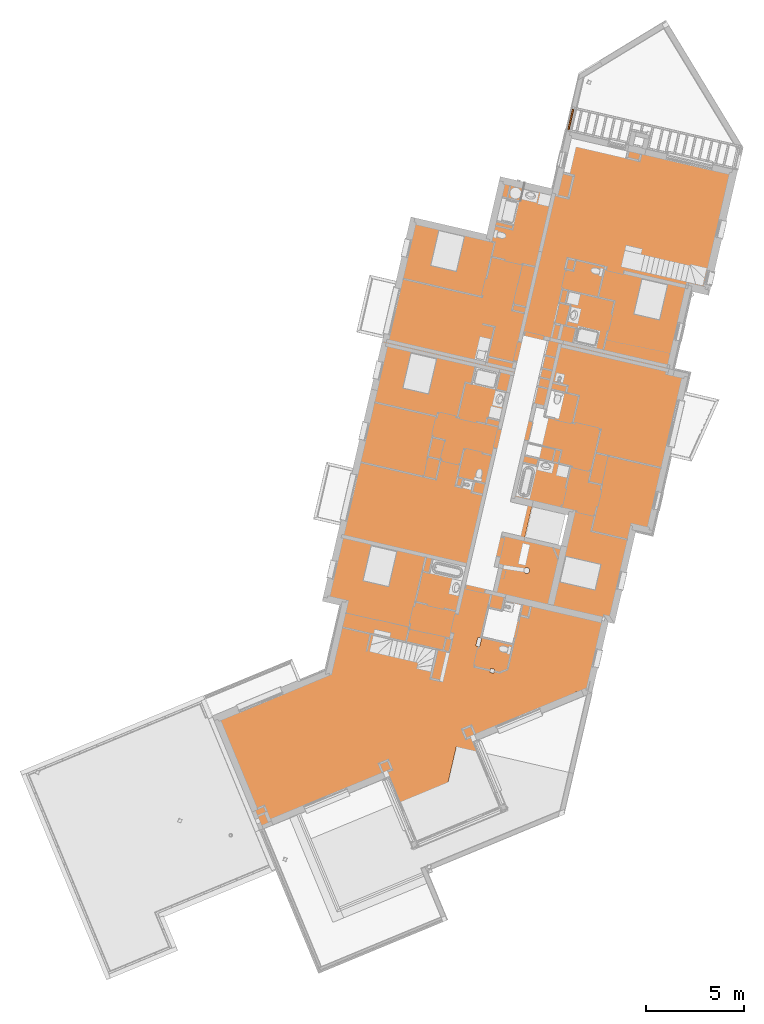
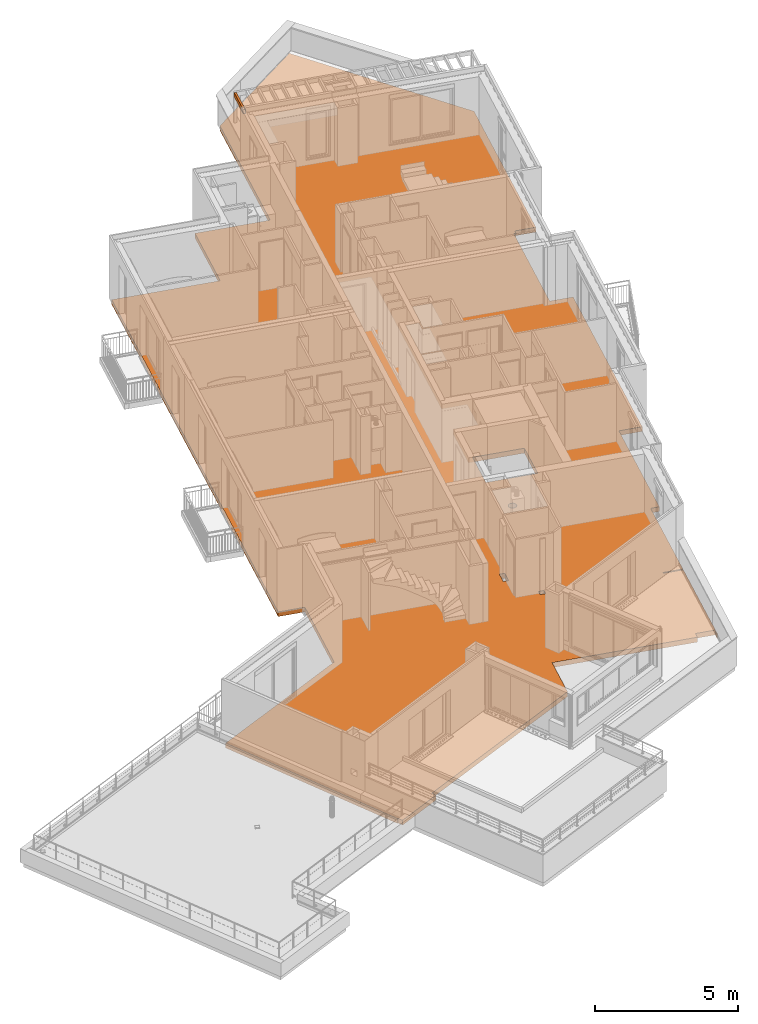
# One storey, part 61 of 62: 2 proxies, 1 opening.
"""IFC2X3 building model written with IfcOpenShell, lengths in metres."""

from ifc_helpers import new_model, entity, si_unit, converted_unit, derived_unit, money_unit, direction, frame, origin_with_axes, place, context, subcontext, project, spatial, faceted_brep, material, type_object, element, save


model = new_model("IFC2X3")

# Units and contexts
model_context = context("Model", 3, precision=1e-05, world=origin_with_axes(), true_north=direction((0.0, 1.0)))
body_context = subcontext(model_context, "Body", "Model", "MODEL_VIEW")
ifc_project = project(units=[si_unit("LENGTHUNIT", "METRE"), si_unit("AREAUNIT", "SQUARE_METRE"), si_unit("VOLUMEUNIT", "CUBIC_METRE"), converted_unit("PLANEANGLEUNIT", "DEGREE", entity("IfcPlaneAngleMeasure", 0.0174532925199), si_unit("PLANEANGLEUNIT", "RADIAN"), dimensions=[0, 0, 0, 0, 0, 0, 0]), si_unit("SOLIDANGLEUNIT", "STERADIAN"), money_unit("EUR"), converted_unit("TIMEUNIT", "Year", entity("IfcTimeMeasure", 31556926.0), si_unit("TIMEUNIT", "SECOND"), dimensions=[0, 0, 1, 0, 0, 0, 0]), si_unit("MASSUNIT", "GRAM", prefix="KILO"), si_unit("THERMODYNAMICTEMPERATUREUNIT", "DEGREE_CELSIUS"), si_unit("LUMINOUSINTENSITYUNIT", "LUMEN"), si_unit("ENERGYUNIT", "JOULE", prefix="MEGA"), derived_unit("THERMALCONDUCTANCEUNIT", [(si_unit("POWERUNIT", "WATT"), 1), (si_unit("LENGTHUNIT", "METRE"), -1), (si_unit("THERMODYNAMICTEMPERATUREUNIT", "KELVIN"), -1)]), derived_unit("SPECIFICHEATCAPACITYUNIT", [(si_unit("ENERGYUNIT", "JOULE"), 1), (si_unit("MASSUNIT", "GRAM", prefix="KILO"), -1), (si_unit("THERMODYNAMICTEMPERATUREUNIT", "KELVIN"), -1)]), derived_unit("MASSDENSITYUNIT", [(si_unit("MASSUNIT", "GRAM", prefix="KILO"), 1), (si_unit("VOLUMEUNIT", "CUBIC_METRE"), -1)])], contexts=[model_context])

# Site, building, storey
site_placement = place(None, origin_with_axes())
site = spatial("IfcSite", under=ifc_project, at=site_placement, Name="Site", CompositionType="ELEMENT")
building_placement = place(site_placement, origin_with_axes())
building = spatial("IfcBuilding", under=site, at=building_placement, Name="Bâtiment", CompositionType="ELEMENT")
storey_placement = place(building_placement, frame((0.0, 0.0, 8.16), z_axis=(0.0, 0.0, 1.0), x_axis=(1.0, 0.0, 0.0)))
storey = spatial("IfcBuildingStorey", under=building, at=storey_placement, Name="R+3", CompositionType="ELEMENT", Elevation=8.16)

# Proxy, opening
ifc_material_1 = material(Name="Béton")
building_element_proxy_type_1 = type_object("IfcBuildingElementProxyType", Name="Béton 210", PredefinedType="NOTDEFINED")
proxy_1_placement = place(storey_placement, frame((-19.7341343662, -12.8394716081, 0.0), z_axis=(0.0, 0.0, 1.0), x_axis=(1.0, 0.0, 0.0)))
proxy_1 = element("IfcBuildingElementProxy", 1, at=proxy_1_placement, inside=storey, type_object=building_element_proxy_type_1, material=ifc_material_1, Name="Dalle_004", context=body_context, shape_type="Brep", body=[
    faceted_brep([(0.813639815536, 3.42801296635, -0.209999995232), (0.747381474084, 3.4433045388, -0.210000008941), (-0.141277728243, 3.64839578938, -0.21), (2.89648553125, 16.8110073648, -0.21), (2.87514314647, 16.8159329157, -0.21), (2.8773919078, 16.8256767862, -0.21), (2.89873428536, 16.8207512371, -0.209999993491), (4.34579608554, 23.0908620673, -0.209999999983), (8.20251532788, 22.2007803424, -0.21), (8.20632428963, 22.2172845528, -0.209999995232), (8.22766667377, 22.2123590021, -0.209999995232), (8.90523259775, 25.1482484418, -0.209999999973), (11.5735017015, 24.5324458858, -0.21), (11.5773106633, 24.5489500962, -0.209999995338), (11.5986530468, 24.5440245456, -0.209999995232), (11.6139446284, 24.610282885, -0.21), (12.9549966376, 30.4210539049, -0.21000000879), (17.2578352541, 33.0363052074, -0.21), (21.0982594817, 26.7177056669, -0.21), (19.4297523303, 19.4880733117, -0.21), (18.6737200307, 19.6625559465, -0.21), (18.6440363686, 19.5339368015, -0.210000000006), (18.6148047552, 19.5406830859, -0.21), (18.548546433, 19.5559746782, -0.209999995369), (17.5800046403, 15.3592883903, -0.209999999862), (17.5976377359, 15.3552188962, -0.209999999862), (17.5938287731, 15.3387146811, -0.21), (18.4100848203, 15.150333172, -0.210000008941), (16.5472842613, 7.07882860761, -0.21), (15.7796534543, 7.25598801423, -0.210000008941), (15.7133951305, 7.27127960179, -0.209999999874), (14.6205702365, 2.53607535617, -0.209999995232), (14.3062505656, 2.60861633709, -0.209999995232), (13.4343320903, -1.16940163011, -0.21), (12.7356963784, -1.00816539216, -0.209999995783), (12.7204047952, -1.07442373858, -0.209999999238), (13.4190405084, -1.2356599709, -0.21), (13.4366736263, -1.23972948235, -0.210000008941), (12.5697741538, -4.99600015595, -0.210000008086), (11.8535053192, -4.83069442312, -0.209999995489), (11.8382137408, -4.89695274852, -0.209999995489), (11.8002235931, -5.06156385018, -0.21), (6.60514151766, -3.86260501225, -0.21), (6.18582355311, -5.66944034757, -0.21), (-1.04353289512, -8.66787291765, -0.21), (-0.970765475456, -8.84338620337, -0.21), (-2.74333896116, -9.57857496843, -0.209999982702), (-2.8233932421, -9.38556047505, -0.209999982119), (-2.8631224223, -9.4020384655, -0.21), (-5.77009633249, -2.39319290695, -0.21), (0.0, 0.0, -0.21), (0.00247496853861, 0.0107240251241, -0.209999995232), (0.0273545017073, 0.0210430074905, -0.209999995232), (12.3203100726, 7.98457302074, -0.21), (10.468974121, 8.41183780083, -0.21), (10.1091722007, 6.852818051, -0.21), (11.960508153, 6.42555327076, -0.21), (7.7105546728, 1.74819077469, -0.210000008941), (7.6015396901, 1.30129511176, -0.210000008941), (7.79584215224, 1.25389729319, -0.210000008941), (7.90485713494, 1.70079295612, -0.210000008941), (8.36686784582, 0.150968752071, -0.210000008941), (8.32189260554, -0.0439087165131, -0.210000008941), (8.51677007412, -0.0888839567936, -0.210000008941), (8.5617453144, 0.10599351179, -0.210000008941), (10.3162930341, 5.05305327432, -0.210000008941), (10.335699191, 5.08046941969, -0.210000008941), (10.3485181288, 5.11151646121, -0.210000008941), (10.3541070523, 5.14463757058, -0.210000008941), (10.3521857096, 5.17817191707, -0.210000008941), (10.342850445, 5.21043794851, -0.210000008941), (10.3265693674, 5.23981771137, -0.210000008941), (10.3041588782, 5.26483798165, -0.210000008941), (10.2767427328, 5.28424413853, -0.210000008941), (10.2456956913, 5.29706307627, -0.210000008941), (10.212574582, 5.3026519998, -0.210000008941), (10.1790402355, 5.30073065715, -0.210000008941), (10.146774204, 5.29139539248, -0.210000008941), (10.1173944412, 5.27511431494, -0.210000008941), (10.0923741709, 5.25270382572, -0.210000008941), (10.072968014, 5.22528768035, -0.210000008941), (10.0601490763, 5.19424063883, -0.210000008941), (10.0545601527, 5.16111952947, -0.210000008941), (10.0564814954, 5.12758518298, -0.210000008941), (10.0658167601, 5.09531915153, -0.210000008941), (10.0820978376, 5.06593938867, -0.210000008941), (10.1045083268, 5.04091911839, -0.210000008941), (10.1319244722, 5.02151296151, -0.210000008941), (10.1629715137, 5.00869402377, -0.210000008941), (10.1960926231, 5.00310510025, -0.210000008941), (10.2296269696, 5.00502644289, -0.210000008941), (10.261893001, 5.01436170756, -0.210000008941), (10.2912727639, 5.03064278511, -0.210000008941), (0.813639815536, 3.42801296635, -0.200000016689), (0.794152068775, 3.43251049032, -0.200000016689), (0.747381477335, 3.44330455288, -0.200000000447), (-0.141277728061, 3.6483957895, -0.200000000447), (2.89648553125, 16.8110073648, -0.2), (2.87699778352, 16.8155048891, -0.200000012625), (2.87514314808, 16.8159329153, -0.200000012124), (2.87514314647, 16.8159329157, 1.11205800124e-09), (2.8773919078, 16.8256767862, 3.00323321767e-09), (2.87924656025, 16.8252487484, -0.200000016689), (2.89873428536, 16.8207512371, -0.200000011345), (2.87924654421, 16.8252487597, 3.18947002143e-09), (4.34579608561, 23.0908620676, -0.20000000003), (4.32630833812, 23.0953595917, -0.20000000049), (4.32630833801, 23.0953595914, 0.0), (8.20251532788, 22.2007803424, 0.0), (8.2108218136, 22.2367722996, 0.0), (8.21082181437, 22.2367722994, -0.200000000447), (8.2063242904, 22.2172845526, -0.200000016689), (8.20817892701, 22.2168565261, -0.200000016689), (8.22766667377, 22.2123590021, -0.200000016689), (8.90523259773, 25.1482484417, -0.200000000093), (8.88574485, 25.1527459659, -0.200000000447), (8.88574485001, 25.152745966, 0.0), (11.5735017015, 24.5324458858, 0.0), (11.5818081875, 24.5684378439, 0.0), (11.58180819, 24.5684378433, -0.200000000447), (11.5773106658, 24.5489500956, -0.200000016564), (11.5986530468, 24.5440245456, -0.200000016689), (11.6031505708, 24.5635122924, -0.200000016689), (11.6139446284, 24.610282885, -0.2), (12.9549966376, 30.4210539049, -0.20000000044), (12.9311219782, 30.4065429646, -0.200000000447), (12.9311219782, 30.4065429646, 0.0), (17.2578352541, 33.0363052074, 0.0), (21.0982594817, 26.7177056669, 0.0), (19.4297523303, 19.4880733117, 4.39486669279e-10), (18.6737200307, 19.6625559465, 4.39486669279e-10), (18.6395388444, 19.5144490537, 0.0), (18.6395388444, 19.5144490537, -0.200000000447), (18.6440363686, 19.5339368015, -0.200000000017), (18.5485464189, 19.5559746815, -0.200000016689), (18.6148047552, 19.5406830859, -0.2), (18.5680341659, 19.5514771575, -0.200000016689), (17.5800046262, 15.3592883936, -0.200000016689), (17.5976377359, 15.3552188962, -0.200000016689), (18.5578730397, 19.5159132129, -0.200000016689), (18.5578730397, 19.5159132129, 0.0), (17.5938287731, 15.3387146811, 0.0), (18.427717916, 15.146263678, 0.0), (18.427717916, 15.146263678, -0.200000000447), (18.4100848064, 15.1503331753, -0.200000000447), (16.5472842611, 7.07882860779, -0.200000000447), (15.7796534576, 7.25598802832, -0.200000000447), (15.7328828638, 7.26678208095, -0.200000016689), (15.7133951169, 7.27127960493, -0.200000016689), (14.6205702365, 2.53607535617, -0.200000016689), (14.3062505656, 2.60861633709, -0.200000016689), (13.4343320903, -1.16940163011, -0.2), (12.7356963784, -1.00816539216, -0.200000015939), (12.7311988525, -1.02765314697, -0.200000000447), (12.7311988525, -1.02765314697, -1.5689014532e-09), (12.7204047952, -1.07442373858, -1.5689014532e-09), (13.436673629, -1.23972947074, 0.0), (12.5697741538, -4.99600015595, 0.0), (12.5697741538, -4.99600015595, -0.20000000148), (11.8535053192, -4.83069442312, -0.200000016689), (11.8535053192, -4.83069442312, -1.5689014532e-09), (11.8382137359, -4.89695276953, -1.5689014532e-09), (11.8002235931, -5.06156385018, 1.35864652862e-09), (6.60514151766, -3.86260501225, 0.0), (6.18582355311, -5.66944034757, 0.0), (-1.04353289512, -8.66787291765, 0.0), (-0.970765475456, -8.84338620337, 0.0), (-2.76181302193, -9.58623723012, 0.0), (-2.76181302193, -9.58623723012, -0.200000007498), (-2.74333896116, -9.57857496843, -0.200000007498), (-2.8233932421, -9.38556047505, -0.200000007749), (-2.84186730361, -9.39322273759, 1.35864652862e-09), (-2.8631224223, -9.4020384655, 0.0), (-2.84186730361, -9.39322273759, -0.200000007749), (-5.77009633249, -2.39319290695, 0.0), (0.0, 0.0, 0.0), (0.00800092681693, 0.034667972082, 0.0), (0.00800092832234, 0.0346679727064, -0.200000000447), (0.00247497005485, 0.0107240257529, -0.200000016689), (0.0046560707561, 0.0116286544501, -0.200000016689), (0.0273545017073, 0.0210430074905, -0.200000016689), (12.3203100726, 7.98457302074, 0.0), (10.468974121, 8.41183780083, 0.0), (10.1091722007, 6.852818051, 0.0), (11.960508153, 6.42555327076, 0.0), (7.7105546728, 1.74819077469, 0.0), (7.6015396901, 1.30129511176, 0.0), (7.79584215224, 1.25389729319, 0.0), (7.90485713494, 1.70079295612, 0.0), (8.36686784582, 0.150968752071, 0.0), (8.32189260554, -0.0439087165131, 0.0), (8.51677007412, -0.0888839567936, 0.0), (8.5617453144, 0.10599351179, 0.0), (10.3162930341, 5.05305327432, 0.0), (10.335699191, 5.08046941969, 0.0), (10.3485181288, 5.11151646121, 0.0), (10.3541070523, 5.14463757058, 0.0), (10.3521857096, 5.17817191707, 0.0), (10.342850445, 5.21043794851, 0.0), (10.3265693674, 5.23981771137, 0.0), (10.3041588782, 5.26483798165, 0.0), (10.2767427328, 5.28424413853, 0.0), (10.2456956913, 5.29706307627, 0.0), (10.212574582, 5.3026519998, 0.0), (10.1790402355, 5.30073065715, 0.0), (10.146774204, 5.29139539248, 0.0), (10.1173944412, 5.27511431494, 0.0), (10.0923741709, 5.25270382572, 0.0), (10.072968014, 5.22528768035, 0.0), (10.0601490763, 5.19424063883, 0.0), (10.0545601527, 5.16111952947, 0.0), (10.0564814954, 5.12758518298, 0.0), (10.0658167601, 5.09531915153, 0.0), (10.0820978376, 5.06593938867, 0.0), (10.1045083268, 5.04091911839, 0.0), (10.1319244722, 5.02151296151, 0.0), (10.1629715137, 5.00869402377, 0.0), (10.1960926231, 5.00310510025, 0.0), (10.2296269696, 5.00502644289, 0.0), (10.261893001, 5.01436170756, 0.0), (10.2912727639, 5.03064278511, 0.0), (0.010182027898, 0.0355726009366, -0.200000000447), (0.789654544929, 3.41302274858, -0.200000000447), (0.742883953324, 3.42381680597, -0.200000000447), (-0.145775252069, 3.62890804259, -0.200000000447), (-0.165263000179, 3.63340556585, -0.200000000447), (2.87699778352, 16.8155048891, 1.11205800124e-09), (-0.165263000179, 3.63340556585, 0.0), (0.789654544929, 3.41302274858, 0.0), (0.010182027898, 0.0355726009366, 0.0), (13.4474676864, -1.19295887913, 0.0), (14.3110062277, 2.54874889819, 0.0), (14.3128608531, 2.54832087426, 0.0), (14.3212407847, 2.58463107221, 0.0), (14.6337058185, 2.51251811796, 0.0), (15.718224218, 7.21173040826, 0.0), (15.7200788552, 7.2113023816, 0.0), (15.728385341, 7.24729433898, 0.0), (16.5604198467, 7.05527136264, 0.0), (18.5597276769, 19.5154851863, 0.0), (18.5635366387, 19.5319893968, 0.0), (11.5836628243, 24.5680098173, 0.0), (8.21267645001, 22.2363442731, 0.0), (8.21267645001, 22.2363442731, -0.200000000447), (11.5836628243, 24.5680098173, -0.200000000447), (11.5944568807, 24.6147804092, -0.200000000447), (18.5635366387, 19.5319893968, -0.200000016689), (18.610307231, 19.5211953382, -0.200000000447), (18.5597276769, 19.5154851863, -0.200000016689), (16.5604198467, 7.05527136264, -0.200000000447), (15.7751559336, 7.23650028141, -0.200000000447), (15.728385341, 7.24729433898, -0.200000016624), (14.3128608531, 2.54832087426, -0.200000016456), (14.3110062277, 2.54874889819, -0.200000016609), (13.4474676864, -1.19295887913, -0.200000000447), (15.7200788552, 7.2113023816, -0.200000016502), (15.718224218, 7.21173040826, -0.200000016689), (14.6337058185, 2.51251811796, -0.200000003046), (14.3212407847, 2.58463107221, -0.200000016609)], [[[0, 1, 2, 3, 4, 5, 6, 7, 8, 9, 10, 11, 12, 13, 14, 15, 16, 17, 18, 19, 20, 21, 22, 23, 24, 25, 26, 27, 28, 29, 30, 31, 32, 33, 34, 35, 36, 37, 38, 39, 40, 41, 42, 43, 44, 45, 46, 47, 48, 49, 50, 51, 52], [53, 54, 55, 56], [57, 58, 59, 60], [61, 62, 63, 64], [65, 66, 67, 68, 69, 70, 71, 72, 73, 74, 75, 76, 77, 78, 79, 80, 81, 82, 83, 84, 85, 86, 87, 88, 89, 90, 91, 92]], [[93, 94, 95, 96, 2, 1, 0]], [[97, 3, 2, 96]], [[98, 99, 4, 3, 97]], [[5, 4, 99, 100, 101]], [[102, 103, 6, 5, 101, 104]], [[6, 103, 105, 7]], [[7, 105, 106, 107, 108, 8]], [[109, 110, 111, 9, 8, 108]], [[112, 113, 10, 9, 111]], [[10, 113, 114, 11]], [[11, 114, 115, 116, 117, 12]], [[118, 119, 120, 13, 12, 117]], [[120, 121, 14, 13]], [[121, 122, 123, 124, 16, 15, 14]], [[16, 124, 125, 126, 127, 17]], [[18, 17, 127, 128]], [[18, 128, 129, 19]], [[130, 20, 19, 129]], [[20, 130, 131, 132, 133, 21]], [[134, 23, 22, 21, 133, 135, 136]], [[134, 137, 24, 23]], [[24, 137, 138, 25]], [[26, 25, 138, 139, 140, 141]], [[142, 143, 144, 27, 26, 141]], [[145, 28, 27, 144]], [[30, 29, 28, 145, 146, 147, 148]], [[148, 149, 31, 30]], [[31, 149, 150, 32]], [[32, 150, 151, 33]], [[152, 34, 33, 151]], [[34, 152, 153, 154, 155, 35]], [[155, 156, 37, 36, 35]], [[156, 157, 158, 38, 37]], [[159, 39, 38, 158]], [[39, 159, 160, 161, 40]], [[162, 41, 40, 161]], [[162, 163, 42, 41]], [[43, 42, 163, 164]], [[44, 43, 164, 165]], [[45, 44, 165, 166]], [[45, 166, 167, 168, 169, 46]], [[170, 47, 46, 169]], [[171, 172, 48, 47, 170, 173]], [[174, 49, 48, 172]], [[50, 49, 174, 175]], [[176, 177, 178, 51, 50, 175]], [[179, 180, 52, 51, 178]], [[180, 93, 0, 52]], [[54, 53, 181, 182]], [[55, 54, 182, 183]], [[56, 55, 183, 184]], [[53, 56, 184, 181]], [[57, 185, 186, 58]], [[58, 186, 187, 59]], [[59, 187, 188, 60]], [[60, 188, 185, 57]], [[61, 189, 190, 62]], [[62, 190, 191, 63]], [[63, 191, 192, 64]], [[64, 192, 189, 61]], [[65, 193, 194, 66]], [[66, 194, 195, 67]], [[67, 195, 196, 68]], [[68, 196, 197, 69]], [[69, 197, 198, 70]], [[70, 198, 199, 71]], [[71, 199, 200, 72]], [[72, 200, 201, 73]], [[73, 201, 202, 74]], [[74, 202, 203, 75]], [[75, 203, 204, 76]], [[76, 204, 205, 77]], [[77, 205, 206, 78]], [[78, 206, 207, 79]], [[79, 207, 208, 80]], [[80, 208, 209, 81]], [[81, 209, 210, 82]], [[82, 210, 211, 83]], [[83, 211, 212, 84]], [[84, 212, 213, 85]], [[85, 213, 214, 86]], [[86, 214, 215, 87]], [[87, 215, 216, 88]], [[88, 216, 217, 89]], [[89, 217, 218, 90]], [[90, 218, 219, 91]], [[91, 219, 220, 92]], [[92, 220, 193, 65]], [[221, 222, 94, 93, 180, 179]], [[94, 222, 223, 224, 225, 98, 97, 96, 95]], [[99, 98, 226, 100]], [[100, 226, 227, 228, 229, 176, 175, 174, 172, 171, 167, 166, 165, 164, 163, 162, 161, 160, 157, 156, 155, 154, 230, 231, 232, 233, 234, 235, 236, 237, 238, 142, 141, 140, 239, 240, 131, 130, 129, 128, 127, 126, 241, 118, 117, 116, 242, 109, 108, 107, 104, 101], [181, 184, 183, 182], [187, 186, 185, 188], [191, 190, 189, 192], [199, 198, 197, 196, 195, 194, 193, 220, 219, 218, 217, 216, 215, 214, 213, 212, 211, 210, 209, 208, 207, 206, 205, 204, 203, 202, 201, 200]], [[103, 102, 106, 105]], [[106, 102, 104, 107]], [[243, 110, 109, 242]], [[243, 112, 111, 110]], [[112, 243, 115, 114, 113]], [[115, 243, 242, 116]], [[244, 119, 118, 241]], [[122, 121, 120, 119, 244]], [[122, 244, 245, 125, 124, 123]], [[244, 241, 126, 125, 245]], [[240, 246, 247, 132, 131]], [[246, 136, 135, 133, 132, 247]], [[136, 246, 248, 139, 138, 137, 134]], [[140, 139, 248, 239]], [[238, 249, 143, 142]], [[147, 146, 145, 144, 143, 249, 250, 251]], [[252, 253, 254, 153, 152, 151, 150, 149, 148, 147, 251, 255, 256, 257, 258]], [[154, 153, 254, 230]], [[160, 159, 158, 157]], [[171, 173, 168, 167]], [[173, 170, 169, 168]], [[221, 177, 176, 229]], [[221, 179, 178, 177]], [[222, 221, 229, 228]], [[222, 228, 227, 225, 224, 223]], [[226, 98, 225, 227]], [[253, 231, 230, 254]], [[231, 253, 252, 232]], [[232, 252, 258, 233]], [[257, 234, 233, 258]], [[234, 257, 256, 235]], [[235, 256, 255, 236]], [[255, 251, 237, 236]], [[237, 251, 250, 249, 238]], [[248, 246, 240, 239]]]),
    faceted_brep([(12.5164924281, -5.22686958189, 0.0), (12.5164924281, -5.22686958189, -0.2), (12.5544825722, -5.0622584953, -0.2), (12.5544825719, -5.06225849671, 0.0), (12.4988593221, -5.22280008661, 0.0), (12.4988593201, -5.22280008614, -0.2), (12.5368494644, -5.05818899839, -0.2), (12.5368494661, -5.05818900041, 0.0)], [[[0, 1, 2, 3]], [[4, 5, 1, 0]], [[5, 6, 2, 1]], [[3, 2, 6, 7]], [[0, 3, 7, 4]], [[7, 6, 5, 4]]]),
])
opening_placement = place(proxy_1_placement, origin_with_axes())
element("IfcOpeningElement", 2, at=opening_placement, cuts=proxy_1, Name="Ouverture de dalle", context=body_context, shape_type="Brep", body=[
    faceted_brep([(10.1091722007, 6.852818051, -0.21), (10.468974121, 8.41183780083, -0.21), (12.3203100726, 7.98457302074, -0.21), (11.960508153, 6.42555327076, -0.21), (10.1091722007, 6.852818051, 0.0), (10.468974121, 8.41183780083, 0.0), (12.3203100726, 7.98457302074, 0.0), (11.960508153, 6.42555327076, 0.0)], [[[0, 1, 2, 3]], [[4, 5, 1, 0]], [[5, 6, 2, 1]], [[6, 7, 3, 2]], [[7, 4, 0, 3]], [[4, 7, 6, 5]]]),
])

# Proxy
ifc_material_2 = material(Name="Bois - Massif 01")
building_element_proxy_type_2 = type_object("IfcBuildingElementProxyType", Name="Panne 23", PredefinedType="NOTDEFINED")
proxy_2_placement = place(storey_placement, frame((-7.39575916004, 14.8318791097, 2.39), z_axis=(0.0, 0.0, 1.0), x_axis=(0.224876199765, 0.974387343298, 0.0)))
element("IfcBuildingElementProxy", 3, at=proxy_2_placement, inside=storey, type_object=building_element_proxy_type_2, material=ifc_material_2, Name="MOB-003", context=body_context, shape_type="Brep", body=[
    faceted_brep([(0.0, -0.04, 0.18), (0.0, -0.04, 0.0), (1.08601784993, -0.04, 0.0), (1.08601784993, -0.04, 0.18), (0.0, 0.04, 0.18), (0.0, 0.04, 0.0), (1.08601784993, 0.04, 0.0), (1.08601784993, 0.04, 0.18)], [[[0, 1, 2, 3]], [[0, 4, 5, 1]], [[1, 5, 6, 2]], [[3, 2, 6, 7]], [[4, 0, 3, 7]], [[5, 4, 7, 6]]]),
])

save(model, "model.ifc")
